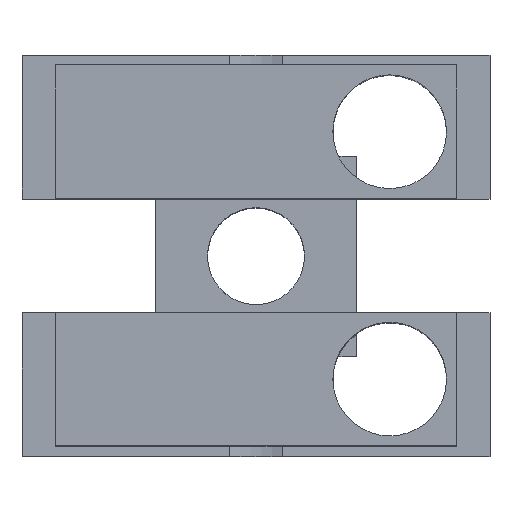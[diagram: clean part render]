
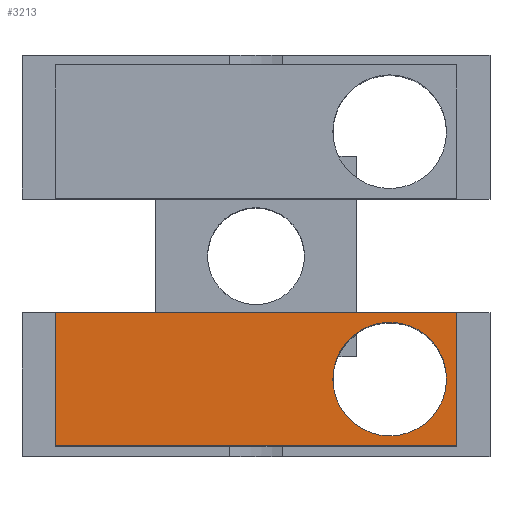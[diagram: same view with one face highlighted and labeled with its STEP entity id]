
A CAD part, top view. The second image highlights one B-rep face of the part: STEP entity #3213.
In plain terms, the highlighted planar face has unit normal (0, 0, 1).
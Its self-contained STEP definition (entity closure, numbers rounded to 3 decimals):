
#1091 = CYLINDRICAL_SURFACE('',#1092,1.7);
#1092 = AXIS2_PLACEMENT_3D('',#1093,#1094,#1095);
#1093 = CARTESIAN_POINT('',(4.,-3.7,-13.));
#1094 = DIRECTION('',(0.,0.,1.));
#1095 = DIRECTION('',(1.,0.,-0.));
#1616 = PLANE('',#1617);
#1617 = AXIS2_PLACEMENT_3D('',#1618,#1619,#1620);
#1618 = CARTESIAN_POINT('',(-7.01,-1.7,-6.01));
#1619 = DIRECTION('',(-0.,1.,0.));
#1620 = DIRECTION('',(0.,0.,1.));
#2041 = EDGE_CURVE('',#2042,#2042,#2044,.T.);
#2042 = VERTEX_POINT('',#2043);
#2043 = CARTESIAN_POINT('',(5.7,-3.7,6.));
#2044 = SURFACE_CURVE('',#2045,(#2050,#2057),.PCURVE_S1.);
#2045 = CIRCLE('',#2046,1.7);
#2046 = AXIS2_PLACEMENT_3D('',#2047,#2048,#2049);
#2047 = CARTESIAN_POINT('',(4.,-3.7,6.));
#2048 = DIRECTION('',(0.,0.,1.));
#2049 = DIRECTION('',(1.,0.,-0.));
#2050 = PCURVE('',#1091,#2051);
#2051 = DEFINITIONAL_REPRESENTATION('',(#2052),#2056);
#2052 = LINE('',#2053,#2054);
#2053 = CARTESIAN_POINT('',(0.,19.));
#2054 = VECTOR('',#2055,1.);
#2055 = DIRECTION('',(1.,0.));
#2056 = ( GEOMETRIC_REPRESENTATION_CONTEXT(2) 
PARAMETRIC_REPRESENTATION_CONTEXT() REPRESENTATION_CONTEXT('2D SPACE',''
  ) );
#2057 = PCURVE('',#2058,#2063);
#2058 = PLANE('',#2059);
#2059 = AXIS2_PLACEMENT_3D('',#2060,#2061,#2062);
#2060 = CARTESIAN_POINT('',(-6.,-5.7,6.));
#2061 = DIRECTION('',(0.,0.,1.));
#2062 = DIRECTION('',(1.,0.,-0.));
#2063 = DEFINITIONAL_REPRESENTATION('',(#2064),#2068);
#2064 = CIRCLE('',#2065,1.7);
#2065 = AXIS2_PLACEMENT_2D('',#2066,#2067);
#2066 = CARTESIAN_POINT('',(10.,2.));
#2067 = DIRECTION('',(1.,0.));
#2068 = ( GEOMETRIC_REPRESENTATION_CONTEXT(2) 
PARAMETRIC_REPRESENTATION_CONTEXT() REPRESENTATION_CONTEXT('2D SPACE',''
  ) );
#2801 = VERTEX_POINT('',#2802);
#2802 = CARTESIAN_POINT('',(-6.,-1.7,6.));
#2816 = PLANE('',#2817);
#2817 = AXIS2_PLACEMENT_3D('',#2818,#2819,#2820);
#2818 = CARTESIAN_POINT('',(-6.,-5.7,-6.));
#2819 = DIRECTION('',(1.,0.,-0.));
#2820 = DIRECTION('',(0.,0.,1.));
#2828 = EDGE_CURVE('',#2801,#2829,#2831,.T.);
#2829 = VERTEX_POINT('',#2830);
#2830 = CARTESIAN_POINT('',(6.,-1.7,6.));
#2831 = SURFACE_CURVE('',#2832,(#2836,#2843),.PCURVE_S1.);
#2832 = LINE('',#2833,#2834);
#2833 = CARTESIAN_POINT('',(-6.,-1.7,6.));
#2834 = VECTOR('',#2835,1.);
#2835 = DIRECTION('',(1.,0.,-0.));
#2836 = PCURVE('',#1616,#2837);
#2837 = DEFINITIONAL_REPRESENTATION('',(#2838),#2842);
#2838 = LINE('',#2839,#2840);
#2839 = CARTESIAN_POINT('',(12.01,1.01));
#2840 = VECTOR('',#2841,1.);
#2841 = DIRECTION('',(0.,1.));
#2842 = ( GEOMETRIC_REPRESENTATION_CONTEXT(2) 
PARAMETRIC_REPRESENTATION_CONTEXT() REPRESENTATION_CONTEXT('2D SPACE',''
  ) );
#2843 = PCURVE('',#2058,#2844);
#2844 = DEFINITIONAL_REPRESENTATION('',(#2845),#2849);
#2845 = LINE('',#2846,#2847);
#2846 = CARTESIAN_POINT('',(0.,4.));
#2847 = VECTOR('',#2848,1.);
#2848 = DIRECTION('',(1.,0.));
#2849 = ( GEOMETRIC_REPRESENTATION_CONTEXT(2) 
PARAMETRIC_REPRESENTATION_CONTEXT() REPRESENTATION_CONTEXT('2D SPACE',''
  ) );
#2867 = PLANE('',#2868);
#2868 = AXIS2_PLACEMENT_3D('',#2869,#2870,#2871);
#2869 = CARTESIAN_POINT('',(6.,-5.7,-6.));
#2870 = DIRECTION('',(1.,0.,-0.));
#2871 = DIRECTION('',(0.,0.,1.));
#3213 = ADVANCED_FACE('',(#3214,#3289),#2058,.T.);
#3214 = FACE_BOUND('',#3215,.T.);
#3215 = EDGE_LOOP('',(#3216,#3239,#3267,#3288));
#3216 = ORIENTED_EDGE('',*,*,#3217,.F.);
#3217 = EDGE_CURVE('',#3218,#2801,#3220,.T.);
#3218 = VERTEX_POINT('',#3219);
#3219 = CARTESIAN_POINT('',(-6.,-5.7,6.));
#3220 = SURFACE_CURVE('',#3221,(#3225,#3232),.PCURVE_S1.);
#3221 = LINE('',#3222,#3223);
#3222 = CARTESIAN_POINT('',(-6.,-5.7,6.));
#3223 = VECTOR('',#3224,1.);
#3224 = DIRECTION('',(-0.,1.,0.));
#3225 = PCURVE('',#2058,#3226);
#3226 = DEFINITIONAL_REPRESENTATION('',(#3227),#3231);
#3227 = LINE('',#3228,#3229);
#3228 = CARTESIAN_POINT('',(0.,0.));
#3229 = VECTOR('',#3230,1.);
#3230 = DIRECTION('',(0.,1.));
#3231 = ( GEOMETRIC_REPRESENTATION_CONTEXT(2) 
PARAMETRIC_REPRESENTATION_CONTEXT() REPRESENTATION_CONTEXT('2D SPACE',''
  ) );
#3232 = PCURVE('',#2816,#3233);
#3233 = DEFINITIONAL_REPRESENTATION('',(#3234),#3238);
#3234 = LINE('',#3235,#3236);
#3235 = CARTESIAN_POINT('',(12.,0.));
#3236 = VECTOR('',#3237,1.);
#3237 = DIRECTION('',(0.,-1.));
#3238 = ( GEOMETRIC_REPRESENTATION_CONTEXT(2) 
PARAMETRIC_REPRESENTATION_CONTEXT() REPRESENTATION_CONTEXT('2D SPACE',''
  ) );
#3239 = ORIENTED_EDGE('',*,*,#3240,.T.);
#3240 = EDGE_CURVE('',#3218,#3241,#3243,.T.);
#3241 = VERTEX_POINT('',#3242);
#3242 = CARTESIAN_POINT('',(6.,-5.7,6.));
#3243 = SURFACE_CURVE('',#3244,(#3248,#3255),.PCURVE_S1.);
#3244 = LINE('',#3245,#3246);
#3245 = CARTESIAN_POINT('',(-6.,-5.7,6.));
#3246 = VECTOR('',#3247,1.);
#3247 = DIRECTION('',(1.,0.,-0.));
#3248 = PCURVE('',#2058,#3249);
#3249 = DEFINITIONAL_REPRESENTATION('',(#3250),#3254);
#3250 = LINE('',#3251,#3252);
#3251 = CARTESIAN_POINT('',(0.,0.));
#3252 = VECTOR('',#3253,1.);
#3253 = DIRECTION('',(1.,0.));
#3254 = ( GEOMETRIC_REPRESENTATION_CONTEXT(2) 
PARAMETRIC_REPRESENTATION_CONTEXT() REPRESENTATION_CONTEXT('2D SPACE',''
  ) );
#3255 = PCURVE('',#3256,#3261);
#3256 = PLANE('',#3257);
#3257 = AXIS2_PLACEMENT_3D('',#3258,#3259,#3260);
#3258 = CARTESIAN_POINT('',(-6.,-5.7,-6.));
#3259 = DIRECTION('',(-0.,1.,0.));
#3260 = DIRECTION('',(0.,0.,1.));
#3261 = DEFINITIONAL_REPRESENTATION('',(#3262),#3266);
#3262 = LINE('',#3263,#3264);
#3263 = CARTESIAN_POINT('',(12.,0.));
#3264 = VECTOR('',#3265,1.);
#3265 = DIRECTION('',(0.,1.));
#3266 = ( GEOMETRIC_REPRESENTATION_CONTEXT(2) 
PARAMETRIC_REPRESENTATION_CONTEXT() REPRESENTATION_CONTEXT('2D SPACE',''
  ) );
#3267 = ORIENTED_EDGE('',*,*,#3268,.T.);
#3268 = EDGE_CURVE('',#3241,#2829,#3269,.T.);
#3269 = SURFACE_CURVE('',#3270,(#3274,#3281),.PCURVE_S1.);
#3270 = LINE('',#3271,#3272);
#3271 = CARTESIAN_POINT('',(6.,-5.7,6.));
#3272 = VECTOR('',#3273,1.);
#3273 = DIRECTION('',(-0.,1.,0.));
#3274 = PCURVE('',#2058,#3275);
#3275 = DEFINITIONAL_REPRESENTATION('',(#3276),#3280);
#3276 = LINE('',#3277,#3278);
#3277 = CARTESIAN_POINT('',(12.,0.));
#3278 = VECTOR('',#3279,1.);
#3279 = DIRECTION('',(0.,1.));
#3280 = ( GEOMETRIC_REPRESENTATION_CONTEXT(2) 
PARAMETRIC_REPRESENTATION_CONTEXT() REPRESENTATION_CONTEXT('2D SPACE',''
  ) );
#3281 = PCURVE('',#2867,#3282);
#3282 = DEFINITIONAL_REPRESENTATION('',(#3283),#3287);
#3283 = LINE('',#3284,#3285);
#3284 = CARTESIAN_POINT('',(12.,0.));
#3285 = VECTOR('',#3286,1.);
#3286 = DIRECTION('',(0.,-1.));
#3287 = ( GEOMETRIC_REPRESENTATION_CONTEXT(2) 
PARAMETRIC_REPRESENTATION_CONTEXT() REPRESENTATION_CONTEXT('2D SPACE',''
  ) );
#3288 = ORIENTED_EDGE('',*,*,#2828,.F.);
#3289 = FACE_BOUND('',#3290,.T.);
#3290 = EDGE_LOOP('',(#3291));
#3291 = ORIENTED_EDGE('',*,*,#2041,.F.);
